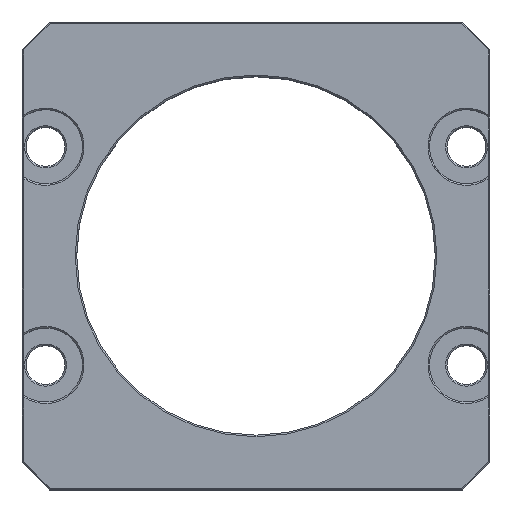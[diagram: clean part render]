
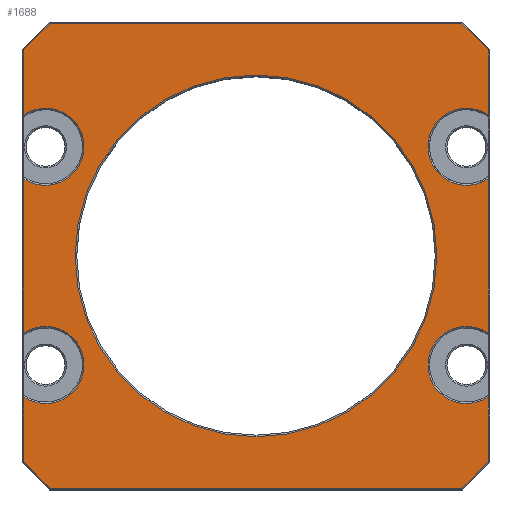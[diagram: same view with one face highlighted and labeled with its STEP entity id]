
A CAD part, top view. The second image highlights one B-rep face of the part: STEP entity #1688.
In plain terms, the highlighted planar face has unit normal (0, 0, 1).
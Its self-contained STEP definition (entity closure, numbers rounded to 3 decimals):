
#223=CARTESIAN_POINT('',(0.,0.,20.));
#224=DIRECTION('',(0.,0.,-1.));
#225=DIRECTION('',(1.,0.,0.));
#226=AXIS2_PLACEMENT_3D('',#223,#224,#225);
#228=CARTESIAN_POINT('',(0.,0.,20.));
#229=DIRECTION('',(0.,0.,-1.));
#230=DIRECTION('',(-1.,0.,0.));
#231=AXIS2_PLACEMENT_3D('',#228,#229,#230);
#233=DIRECTION('',(-0.707,-0.707,0.));
#234=VECTOR('',#233,4.784);
#235=CARTESIAN_POINT('',(-26.417,29.8,20.));
#236=LINE('',#235,#234);
#237=DIRECTION('',(-1.,0.,0.));
#238=VECTOR('',#237,52.834);
#239=CARTESIAN_POINT('',(26.417,29.8,20.));
#240=LINE('',#239,#238);
#241=DIRECTION('',(-0.707,0.707,0.));
#242=VECTOR('',#241,4.784);
#243=CARTESIAN_POINT('',(29.8,26.417,20.));
#244=LINE('',#243,#242);
#245=DIRECTION('',(0.,1.,0.));
#246=VECTOR('',#245,8.335);
#247=CARTESIAN_POINT('',(29.8,18.082,20.));
#248=LINE('',#247,#246);
#249=DIRECTION('',(0.,1.,0.));
#250=VECTOR('',#249,19.836);
#251=CARTESIAN_POINT('',(29.8,-9.918,20.));
#252=LINE('',#251,#250);
#253=DIRECTION('',(0.,1.,0.));
#254=VECTOR('',#253,8.335);
#255=CARTESIAN_POINT('',(29.8,-26.417,20.));
#256=LINE('',#255,#254);
#257=DIRECTION('',(0.707,0.707,0.));
#258=VECTOR('',#257,4.784);
#259=CARTESIAN_POINT('',(26.417,-29.8,20.));
#260=LINE('',#259,#258);
#261=DIRECTION('',(1.,0.,0.));
#262=VECTOR('',#261,52.834);
#263=CARTESIAN_POINT('',(-26.417,-29.8,20.));
#264=LINE('',#263,#262);
#265=DIRECTION('',(0.707,-0.707,0.));
#266=VECTOR('',#265,4.784);
#267=CARTESIAN_POINT('',(-29.8,-26.417,20.));
#268=LINE('',#267,#266);
#269=DIRECTION('',(0.,-1.,0.));
#270=VECTOR('',#269,8.335);
#271=CARTESIAN_POINT('',(-29.8,-18.082,20.));
#272=LINE('',#271,#270);
#273=DIRECTION('',(0.,-1.,0.));
#274=VECTOR('',#273,19.836);
#275=CARTESIAN_POINT('',(-29.8,9.918,20.));
#276=LINE('',#275,#274);
#277=DIRECTION('',(0.,-1.,0.));
#278=VECTOR('',#277,8.335);
#279=CARTESIAN_POINT('',(-29.8,26.417,20.));
#280=LINE('',#279,#278);
#305=CARTESIAN_POINT('',(-27.,14.,20.));
#306=DIRECTION('',(0.,0.,-1.));
#307=DIRECTION('',(-0.566,0.825,0.));
#308=AXIS2_PLACEMENT_3D('',#305,#306,#307);
#361=CARTESIAN_POINT('',(-27.,-14.,20.));
#362=DIRECTION('',(0.,0.,-1.));
#363=DIRECTION('',(-0.566,0.825,0.));
#364=AXIS2_PLACEMENT_3D('',#361,#362,#363);
#529=CARTESIAN_POINT('',(27.,-14.,20.));
#530=DIRECTION('',(0.,0.,-1.));
#531=DIRECTION('',(0.566,-0.825,0.));
#532=AXIS2_PLACEMENT_3D('',#529,#530,#531);
#581=CARTESIAN_POINT('',(27.,14.,20.));
#582=DIRECTION('',(0.,0.,-1.));
#583=DIRECTION('',(0.566,-0.825,0.));
#584=AXIS2_PLACEMENT_3D('',#581,#582,#583);
#1255=CARTESIAN_POINT('',(23.2,0.,20.));
#1256=CARTESIAN_POINT('',(-23.2,0.,20.));
#1257=VERTEX_POINT('',#1255);
#1258=VERTEX_POINT('',#1256);
#1305=CARTESIAN_POINT('',(-26.417,29.8,20.));
#1306=CARTESIAN_POINT('',(-29.8,26.417,20.));
#1307=VERTEX_POINT('',#1305);
#1308=VERTEX_POINT('',#1306);
#1313=CARTESIAN_POINT('',(-29.8,18.082,20.));
#1314=VERTEX_POINT('',#1313);
#1331=CARTESIAN_POINT('',(-29.8,9.918,20.));
#1332=CARTESIAN_POINT('',(-29.8,-9.918,
20.));
#1333=VERTEX_POINT('',#1331);
#1334=VERTEX_POINT('',#1332);
#1353=CARTESIAN_POINT('',(-29.8,-18.082,
20.));
#1354=CARTESIAN_POINT('',(-29.8,-26.417,20.));
#1355=VERTEX_POINT('',#1353);
#1356=VERTEX_POINT('',#1354);
#1359=CARTESIAN_POINT('',(-26.417,-29.8,20.));
#1360=VERTEX_POINT('',#1359);
#1363=CARTESIAN_POINT('',(26.417,-29.8,20.));
#1364=VERTEX_POINT('',#1363);
#1367=CARTESIAN_POINT('',(29.8,-26.417,20.));
#1368=VERTEX_POINT('',#1367);
#1369=CARTESIAN_POINT('',(29.8,-18.082,20.));
#1370=VERTEX_POINT('',#1369);
#1387=CARTESIAN_POINT('',(29.8,-9.918,20.));
#1388=CARTESIAN_POINT('',(29.8,9.918,20.));
#1389=VERTEX_POINT('',#1387);
#1390=VERTEX_POINT('',#1388);
#1395=CARTESIAN_POINT('',(29.8,18.082,20.));
#1396=CARTESIAN_POINT('',(29.8,26.417,20.));
#1397=VERTEX_POINT('',#1395);
#1398=VERTEX_POINT('',#1396);
#1401=CARTESIAN_POINT('',(26.417,29.8,20.));
#1402=VERTEX_POINT('',#1401);
#1644=CARTESIAN_POINT('',(0.,0.,20.));
#1645=DIRECTION('',(0.,0.,1.));
#1646=DIRECTION('',(1.,0.,0.));
#1647=AXIS2_PLACEMENT_3D('',#1644,#1645,#1646);
#1648=PLANE('',#1647);
#1650=ORIENTED_EDGE('',*,*,#1649,.F.);
#1652=ORIENTED_EDGE('',*,*,#1651,.F.);
#1654=ORIENTED_EDGE('',*,*,#1653,.F.);
#1656=ORIENTED_EDGE('',*,*,#1655,.F.);
#1658=ORIENTED_EDGE('',*,*,#1657,.F.);
#1660=ORIENTED_EDGE('',*,*,#1659,.F.);
#1662=ORIENTED_EDGE('',*,*,#1661,.F.);
#1664=ORIENTED_EDGE('',*,*,#1663,.F.);
#1666=ORIENTED_EDGE('',*,*,#1665,.F.);
#1668=ORIENTED_EDGE('',*,*,#1667,.F.);
#1670=ORIENTED_EDGE('',*,*,#1669,.F.);
#1672=ORIENTED_EDGE('',*,*,#1671,.F.);
#1674=ORIENTED_EDGE('',*,*,#1673,.F.);
#1676=ORIENTED_EDGE('',*,*,#1675,.F.);
#1678=ORIENTED_EDGE('',*,*,#1677,.F.);
#1680=ORIENTED_EDGE('',*,*,#1679,.F.);
#1681=EDGE_LOOP('',(#1650,#1652,#1654,#1656,#1658,#1660,#1662,#1664,#1666,#1668,
#1670,#1672,#1674,#1676,#1678,#1680));
#1682=FACE_OUTER_BOUND('',#1681,.F.);
#1684=ORIENTED_EDGE('',*,*,#1683,.F.);
#1685=ORIENTED_EDGE('',*,*,#1634,.F.);
#1686=EDGE_LOOP('',(#1684,#1685));
#1687=FACE_BOUND('',#1686,.F.);
#227=CIRCLE('',#226,23.2);
#232=CIRCLE('',#231,23.2);
#309=CIRCLE('',#308,4.95);
#365=CIRCLE('',#364,4.95);
#533=CIRCLE('',#532,4.95);
#585=CIRCLE('',#584,4.95);
#1634=EDGE_CURVE('',#1258,#1257,#232,.T.);
#1649=EDGE_CURVE('',#1307,#1308,#236,.T.);
#1651=EDGE_CURVE('',#1402,#1307,#240,.T.);
#1653=EDGE_CURVE('',#1398,#1402,#244,.T.);
#1655=EDGE_CURVE('',#1397,#1398,#248,.T.);
#1657=EDGE_CURVE('',#1390,#1397,#585,.T.);
#1659=EDGE_CURVE('',#1389,#1390,#252,.T.);
#1661=EDGE_CURVE('',#1370,#1389,#533,.T.);
#1663=EDGE_CURVE('',#1368,#1370,#256,.T.);
#1665=EDGE_CURVE('',#1364,#1368,#260,.T.);
#1667=EDGE_CURVE('',#1360,#1364,#264,.T.);
#1669=EDGE_CURVE('',#1356,#1360,#268,.T.);
#1671=EDGE_CURVE('',#1355,#1356,#272,.T.);
#1673=EDGE_CURVE('',#1334,#1355,#365,.T.);
#1675=EDGE_CURVE('',#1333,#1334,#276,.T.);
#1677=EDGE_CURVE('',#1314,#1333,#309,.T.);
#1679=EDGE_CURVE('',#1308,#1314,#280,.T.);
#1683=EDGE_CURVE('',#1257,#1258,#227,.T.);
#1688=ADVANCED_FACE('',(#1682,#1687),#1648,.T.);
